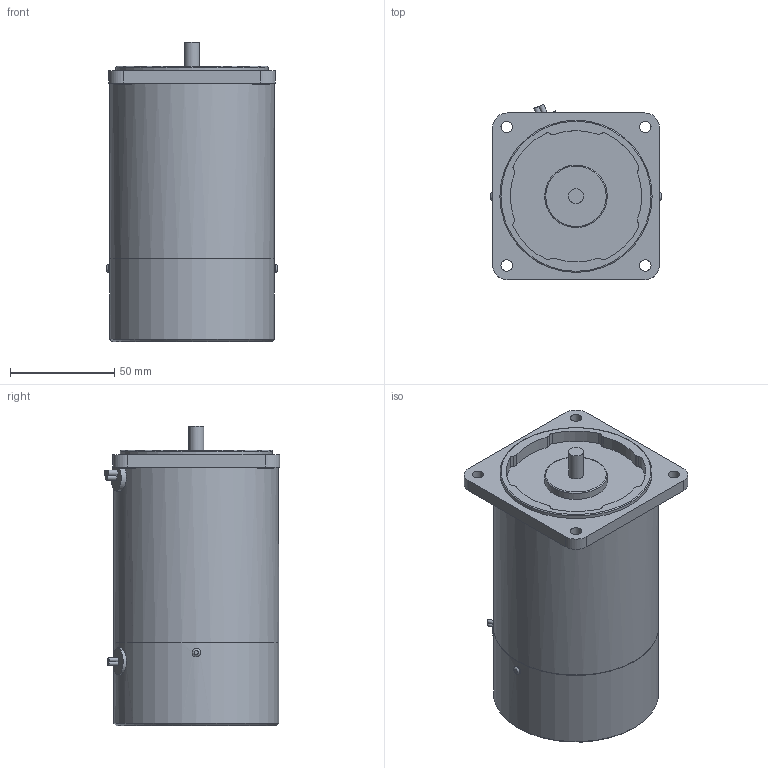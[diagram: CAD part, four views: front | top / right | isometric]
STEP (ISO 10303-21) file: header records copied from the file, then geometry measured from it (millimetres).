
FILE_DESCRIPTION((''),'2;1');
FILE_NAME('E:\2공장-도면\3D\표준형 3D(민규)\step file\B\K8RG25Nㅁ-B.stp','2014-11-13T12:28:03',('AHN'),(''),'Autodesk Inventor 2012','Autodesk Inventor 2012','');
FILE_SCHEMA(('CONFIG_CONTROL_DESIGN'));
Length unit declared in the file: millimetre
Products named in the file (1): K8ㅁG25Nㅁ-Bㄱ
Bounding box: 82 x 84.13 x 143.5 mm (x, y, z)
Volume: 637757.3 mm3; surface area: 48205.7 mm2
Topology: 1 solids, 1 shells, 87 faces, 198 edges, 124 vertices
Faces by surface type: cylinder 54, plane 28, bspline 2, torus 2, cone 1
Full cylindrical faces by diameter (mm): 1.8 x2, 4 x2, 5.5 x4, 7.21 x1, 8 x4, 13 x1, 30 x1, 73 x1, 78.8 x1, 79 x2
Entity records: 2610 total; most frequent: CARTESIAN_POINT 661, DIRECTION 445, ORIENTED_EDGE 336, AXIS2_PLACEMENT_3D 195, EDGE_CURVE 168, EDGE_LOOP 132, VERTEX_POINT 116, CIRCLE 109
